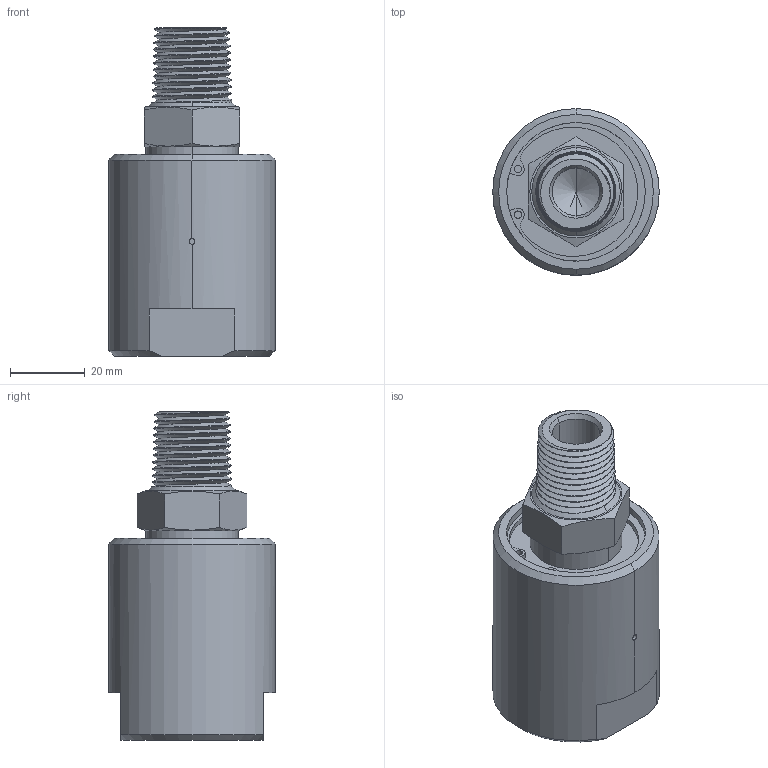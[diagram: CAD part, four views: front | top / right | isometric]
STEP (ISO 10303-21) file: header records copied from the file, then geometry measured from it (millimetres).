
FILE_DESCRIPTION (( 'STEP AP214' ), '1' );
FILE_NAME ('SPS(M)-5410.STEP', '2013-02-08T15:50:25', ( '' ), ( '' ), 'SwSTEP 2.0', 'SolidWorks 2011', '' );
FILE_SCHEMA (( 'AUTOMOTIVE_DESIGN' ));
Length unit declared in the file: inch
Products named in the file (1): SPS(M)-5410
Bounding box: 44.45 x 44.45 x 87.81 mm (x, y, z)
Volume: 83225.5 mm3; surface area: 17168.9 mm2
Topology: 1 solids, 1 shells, 102 faces, 265 edges, 167 vertices
Faces by surface type: cone 47, cylinder 27, plane 23, bspline 5
Entity records: 11868 total; most frequent: CARTESIAN_POINT 8588, ORIENTED_EDGE 514, DIRECTION 446, EDGE_CURVE 257, AXIS2_PLACEMENT_3D 176, VERTEX_POINT 167, EDGE_LOOP 112, ADVANCED_FACE 102
